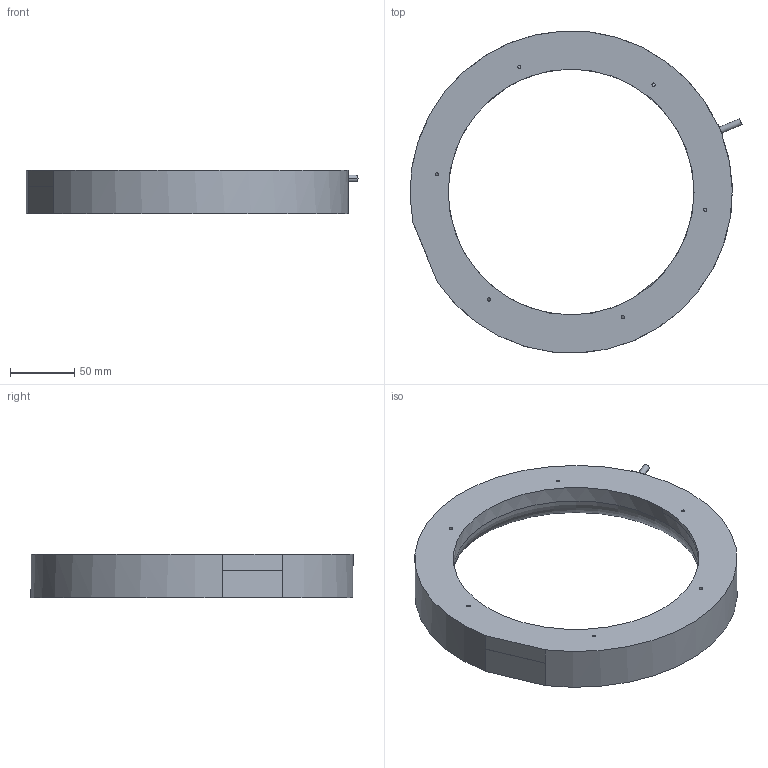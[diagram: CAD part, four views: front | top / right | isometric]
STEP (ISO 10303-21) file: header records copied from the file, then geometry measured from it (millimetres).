
FILE_DESCRIPTION((''),'2;1');
FILE_NAME('MV-LRSS-H-250-W','2024-03-29T18:26:22',('qiaoxuan5'),(''),'CREO PARAMETRIC BY PTC INC, 2020044','CREO PARAMETRIC BY PTC INC, 2020044','');
FILE_SCHEMA(('CONFIG_CONTROL_DESIGN'));
Length unit declared in the file: millimetre
Products named in the file (1): MV-LRSS-H-250-W
Bounding box: 257.5 x 249.8 x 34 mm (x, y, z)
Volume: 432814.9 mm3; surface area: 131177.9 mm2
Topology: 1 solids, 9 shells, 378 faces, 880 edges, 528 vertices
Faces by surface type: plane 218, cylinder 105, cone 32, torus 21, sphere 2
Entity records: 10832 total; most frequent: CARTESIAN_POINT 2109, DIRECTION 1840, ORIENTED_EDGE 1756, EDGE_CURVE 878, AXIS2_PLACEMENT_3D 651, VECTOR 538, LINE 538, VERTEX_POINT 528
